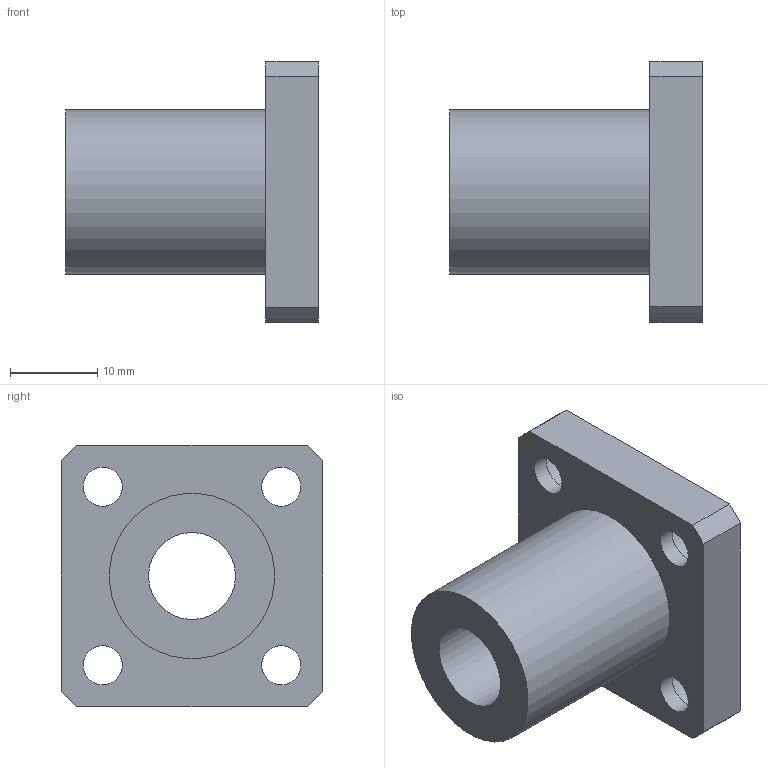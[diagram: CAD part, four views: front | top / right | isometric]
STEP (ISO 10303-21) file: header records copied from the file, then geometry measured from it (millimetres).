
FILE_DESCRIPTION(/* description */ (''),/* implementation_level */ '2;1');
FILE_NAME(/* name */ 'LMK10UU',/* time_stamp */ '2019-07-09T15:12:54+02:00',/* author */ ('VĂ©gh MĂˇtĂ©'),/* organization */ ('Bearing Kft'),/* preprocessor_version */ 'ST-DEVELOPER v16.7',/* originating_system */ 'DEX',/* authorisation */ $);
FILE_SCHEMA (('AUTOMOTIVE_DESIGN {1 0 10303 214 3 1 1}'));
Length unit declared in the file: millimetre
Products named in the file (1): LMK10UU
Bounding box: 29 x 30 x 30 mm (x, y, z)
Volume: 8761 mm3; surface area: 4989.1 mm2
Topology: 1 solids, 1 shells, 327 faces, 822 edges, 548 vertices
Faces by surface type: plane 250, bspline 60, cylinder 17
Full cylindrical faces by diameter (mm): 4.5 x4, 7.5 x4, 10 x1, 19 x1
Entity records: 12231 total; most frequent: CARTESIAN_POINT 4741, ORIENTED_EDGE 1618, DIRECTION 1259, EDGE_CURVE 809, LINE 655, VECTOR 655, VERTEX_POINT 548, EDGE_LOOP 401
